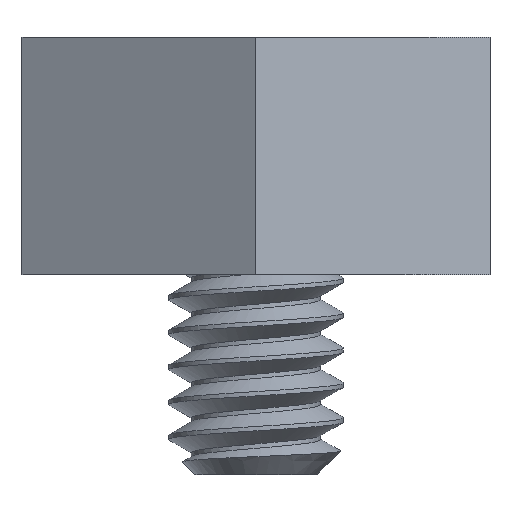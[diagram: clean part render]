
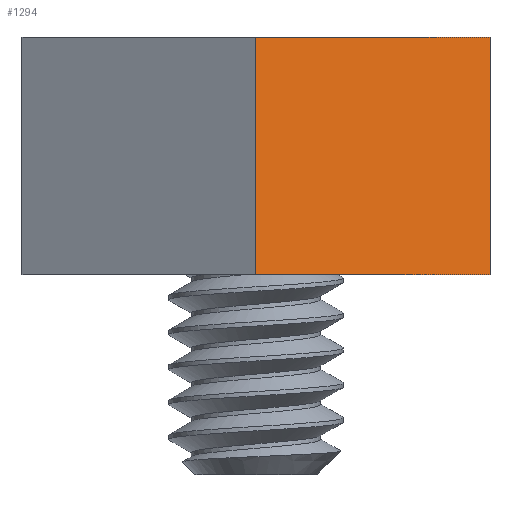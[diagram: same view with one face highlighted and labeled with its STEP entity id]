
A CAD part, left-side view. The second image highlights one B-rep face of the part: STEP entity #1294.
In plain terms, the highlighted planar face has unit normal (-0.866, -0.5, 0) as drawn and (-0.866, 0, 0.5) by its records, which use the part's own axes.
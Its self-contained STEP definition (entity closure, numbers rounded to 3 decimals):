
#101=PLANE('',#1461);
#266=FACE_OUTER_BOUND('',#350,.T.);
#350=EDGE_LOOP('',(#1196,#1197,#1198,#1199));
#414=LINE('',#4372,#495);
#420=LINE('',#4384,#501);
#433=LINE('',#4429,#514);
#434=LINE('',#4430,#515);
#495=VECTOR('',#1715,10.);
#501=VECTOR('',#1725,10.);
#514=VECTOR('',#1778,10.);
#515=VECTOR('',#1779,10.);
#645=VERTEX_POINT('',#4369);
#646=VERTEX_POINT('',#4371);
#650=VERTEX_POINT('',#4382);
#662=VERTEX_POINT('',#4428);
#814=EDGE_CURVE('',#646,#645,#414,.T.);
#821=EDGE_CURVE('',#650,#645,#420,.T.);
#843=EDGE_CURVE('',#646,#662,#433,.T.);
#844=EDGE_CURVE('',#662,#650,#434,.T.);
#1196=ORIENTED_EDGE('',*,*,#843,.F.);
#1197=ORIENTED_EDGE('',*,*,#814,.T.);
#1198=ORIENTED_EDGE('',*,*,#821,.F.);
#1199=ORIENTED_EDGE('',*,*,#844,.F.);
#1294=ADVANCED_FACE('',(#266),#101,.T.);
#1461=AXIS2_PLACEMENT_3D('',#4427,#1776,#1777);
#1715=DIRECTION('',(0.,1.,0.));
#1725=DIRECTION('',(0.5,0.,0.866));
#1776=DIRECTION('center_axis',(-0.866,0.,0.5));
#1777=DIRECTION('ref_axis',(0.5,0.,0.866));
#1778=DIRECTION('',(-0.5,0.,-0.866));
#1779=DIRECTION('',(0.,1.,0.));
#4369=CARTESIAN_POINT('',(-4.913,8.636,8.509));
#4371=CARTESIAN_POINT('',(-4.913,0.,8.509));
#4372=CARTESIAN_POINT('',(-4.913,0.,8.509));
#4382=CARTESIAN_POINT('',(-9.825,8.636,0.));
#4384=CARTESIAN_POINT('',(-4.913,8.636,8.509));
#4427=CARTESIAN_POINT('Origin',(-9.825,0.,0.));
#4428=CARTESIAN_POINT('',(-9.825,0.,0.));
#4429=CARTESIAN_POINT('',(-4.913,0.,8.509));
#4430=CARTESIAN_POINT('',(-9.825,0.,0.));
